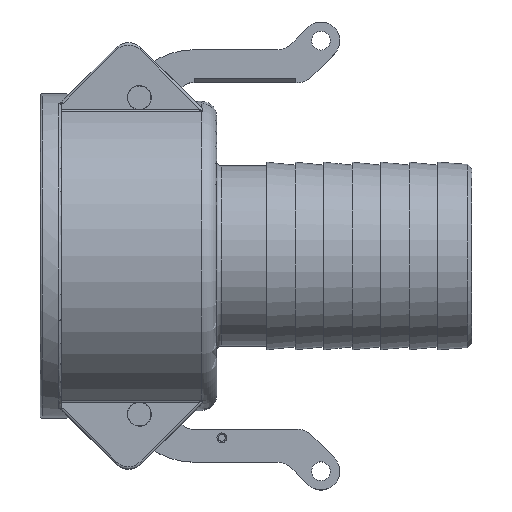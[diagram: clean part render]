
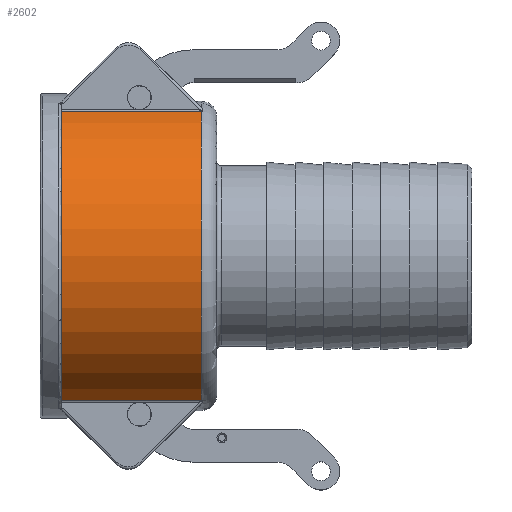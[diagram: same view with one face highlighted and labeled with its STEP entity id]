
A CAD part, top view. The second image highlights one B-rep face of the part: STEP entity #2602.
In plain terms, the highlighted cylindrical face has radius 52.324 mm (diameter 104.648 mm), a partial arc.
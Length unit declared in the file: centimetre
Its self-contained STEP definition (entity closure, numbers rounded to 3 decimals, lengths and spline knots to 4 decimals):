
#86=B_SPLINE_CURVE_WITH_KNOTS('',3,(#4878,#4879,#4880,#4881,#4882,#4883,
#4884,#4885,#4886,#4887),.UNSPECIFIED.,.F.,.U.,(4,2,2,2,4),(0.,0.0187,
0.0369,0.0482,0.0553),.UNSPECIFIED.);
#88=B_SPLINE_CURVE_WITH_KNOTS('',3,(#4918,#4919,#4920,#4921,#4922,#4923,
#4924,#4925,#4926,#4927,#4928,#4929,#4930),.UNSPECIFIED.,.F.,.U.,(4,3,3,
3,4),(0.,0.0188,0.037,0.0483,0.0554),
 .UNSPECIFIED.);
#160=VECTOR('',#3207,1.);
#163=VECTOR('',#3219,1.);
#267=LINE('',#4906,#160);
#270=LINE('',#4932,#163);
#895=CYLINDRICAL_SURFACE('',#2804,5.2324);
#999=VERTEX_POINT('',#4170);
#1000=VERTEX_POINT('',#4172);
#1030=VERTEX_POINT('',#4888);
#1033=VERTEX_POINT('',#4904);
#1034=VERTEX_POINT('',#4909);
#1038=VERTEX_POINT('',#4931);
#1179=CIRCLE('',#2776,5.2324);
#1195=CIRCLE('',#2801,5.2324);
#1351=EDGE_CURVE('',#999,#1000,#1179,.T.);
#1390=EDGE_CURVE('',#1000,#1030,#86,.F.);
#1395=EDGE_CURVE('',#1030,#1033,#267,.T.);
#1396=EDGE_CURVE('',#1033,#1034,#1195,.T.);
#1401=EDGE_CURVE('',#1038,#999,#88,.T.);
#1402=EDGE_CURVE('',#1034,#1038,#270,.T.);
#1800=ORIENTED_EDGE('',*,*,#1395,.F.);
#1801=ORIENTED_EDGE('',*,*,#1390,.F.);
#1802=ORIENTED_EDGE('',*,*,#1351,.F.);
#1803=ORIENTED_EDGE('',*,*,#1401,.F.);
#1804=ORIENTED_EDGE('',*,*,#1402,.F.);
#1805=ORIENTED_EDGE('',*,*,#1396,.F.);
#2251=EDGE_LOOP('',(#1800,#1801,#1802,#1803,#1804,#1805));
#2446=FACE_BOUND('',#2251,.T.);
#2602=ADVANCED_FACE('',(#2446),#895,.T.);
#2776=AXIS2_PLACEMENT_3D('',#4171,#3148,#3149);
#2801=AXIS2_PLACEMENT_3D('',#4908,#3209,#3210);
#2804=AXIS2_PLACEMENT_3D('',#4917,#3217,#3218);
#3148=DIRECTION('',(1.,0.,0.));
#3149=DIRECTION('',(0.,0.,-5.232));
#3207=DIRECTION('',(-1.,0.,0.));
#3209=DIRECTION('',(-1.,0.,0.));
#3210=DIRECTION('',(0.,0.,5.232));
#3217=DIRECTION('',(1.,0.,0.));
#3218=DIRECTION('',(0.,0.,5.232));
#3219=DIRECTION('',(1.,0.,0.));
#4170=CARTESIAN_POINT('',(5.4534,4.886,1.8723));
#4171=CARTESIAN_POINT('',(5.4534,0.,0.));
#4172=CARTESIAN_POINT('',(5.4534,-4.886,1.8723));
#4878=CARTESIAN_POINT('',(5.3983,-4.8839,1.8777));
#4879=CARTESIAN_POINT('',(5.4046,-4.8839,1.8777));
#4880=CARTESIAN_POINT('',(5.4108,-4.884,1.8775));
#4881=CARTESIAN_POINT('',(5.4232,-4.8843,1.8767));
#4882=CARTESIAN_POINT('',(5.4292,-4.8845,1.8761));
#4883=CARTESIAN_POINT('',(5.439,-4.885,1.8748));
#4884=CARTESIAN_POINT('',(5.4427,-4.8852,1.8743));
#4885=CARTESIAN_POINT('',(5.4488,-4.8856,1.8732));
#4886=CARTESIAN_POINT('',(5.4511,-4.8858,1.8728));
#4887=CARTESIAN_POINT('',(5.4534,-4.886,1.8723));
#4888=CARTESIAN_POINT('',(5.3983,-4.8839,1.8777));
#4904=CARTESIAN_POINT('',(0.7112,-4.8839,1.8777));
#4906=CARTESIAN_POINT('',(0.,-4.8839,1.8777));
#4908=CARTESIAN_POINT('',(0.7112,0.,0.));
#4909=CARTESIAN_POINT('',(0.7112,4.8839,1.8777));
#4917=CARTESIAN_POINT('',(0.,0.,0.));
#4918=CARTESIAN_POINT('',(5.3983,4.8839,1.8777));
#4919=CARTESIAN_POINT('',(5.4046,4.8839,1.8777));
#4920=CARTESIAN_POINT('',(5.4109,4.884,1.8775));
#4921=CARTESIAN_POINT('',(5.4171,4.8841,1.8771));
#4922=CARTESIAN_POINT('',(5.4232,4.8843,1.8767));
#4923=CARTESIAN_POINT('',(5.4292,4.8845,1.8761));
#4924=CARTESIAN_POINT('',(5.4352,4.8848,1.8753));
#4925=CARTESIAN_POINT('',(5.439,4.885,1.8748));
#4926=CARTESIAN_POINT('',(5.4427,4.8852,1.8743));
#4927=CARTESIAN_POINT('',(5.4464,4.8854,1.8736));
#4928=CARTESIAN_POINT('',(5.4487,4.8856,1.8732));
#4929=CARTESIAN_POINT('',(5.4511,4.8858,1.8728));
#4930=CARTESIAN_POINT('',(5.4534,4.886,1.8723));
#4931=CARTESIAN_POINT('',(5.3983,4.8839,1.8777));
#4932=CARTESIAN_POINT('',(0.,4.8839,1.8777));
